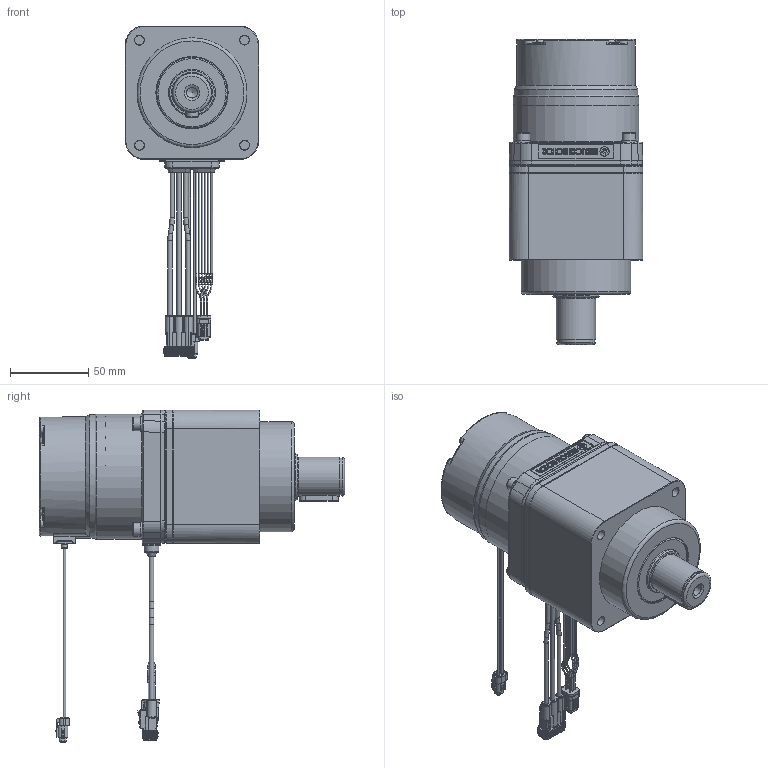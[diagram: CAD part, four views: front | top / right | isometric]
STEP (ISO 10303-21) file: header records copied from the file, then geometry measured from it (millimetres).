
FILE_DESCRIPTION(/* description */ (''),/* implementation_level */ '2;1');
FILE_NAME(/* name */ 'MS94BZE.stp',/* time_stamp */ '2024-04-09T18:23:31+09:00',/* author */ (''),/* organization */ (''),/* preprocessor_version */ 'ST-DEVELOPER v18.101',/* originating_system */ 'SIEMENS PLM Software NX 2011',/* authorisation */ '');
FILE_SCHEMA (('AUTOMOTIVE_DESIGN { 1 0 10303 214 3 1 1 1 }'));
Products named in the file (3): MS94BZC_Brake-01; MS94BZF_gear; MS94BZE
Assembly tree (2 placements, depth 2):
  MS94BZE
    MS94BZF_gear
    MS94BZC_Brake-01
Bounding box: 85 x 194.5 x 211.5 mm (x, y, z)
Volume: 983251.3 mm3; surface area: 127043.1 mm2
Topology: 5 solids, 17 shells, 2207 faces, 5306 edges, 3173 vertices
Faces by surface type: cylinder 865, plane 779, torus 273, bspline 140, cone 72, sphere 72, revolution 6
Full cylindrical faces by diameter (mm): 1 x30, 1.02 x6, 1.6 x2, 1.7 x2, 1.9 x2, 2.8 x7, 3 x8, 3.01 x2, 3.025 x6, 4.41 x2, 4.5 x5, 5 x5, 5.25 x4, 5.3 x4, 5.55 x4, 6 x4, 6.3 x4, 6.5 x4, 6.8 x1, 8.5 x4, 9.2 x4, 10.3 x4, 23.795 x1, 24.994 x1, 29.8 x1, 29.983 x1, 30 x1, 46 x1, 70 x1, 70.4 x1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
Entity records: 65582 total; most frequent: CARTESIAN_POINT 15971, DIRECTION 10443, ORIENTED_EDGE 9866, EDGE_CURVE 4933, AXIS2_PLACEMENT_3D 3980, VERTEX_POINT 3100, EDGE_LOOP 2594, LINE 2477
